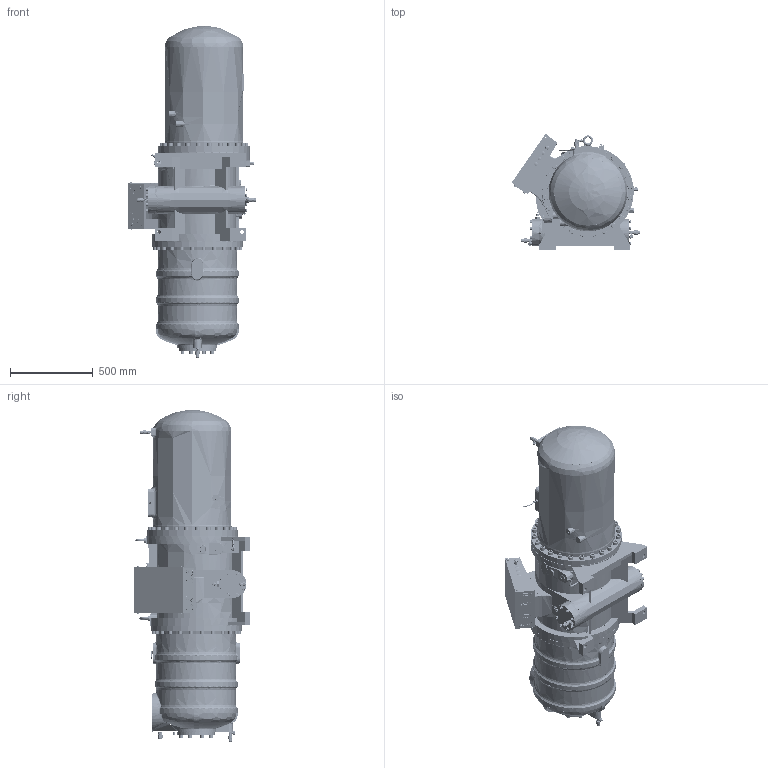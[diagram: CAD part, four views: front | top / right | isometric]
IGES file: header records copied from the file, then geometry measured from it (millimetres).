
Start section: SolidWorks IGES file using analytic representation for surfaces
Global section: file name: \\Datacenterrd1\@研發部\設計一課(冷媒)\(1)-文管中心\(2)-3D文管\(8)-Compressor 3Doutline(Surface)\RC2\RC2-A\IGS\RC2-930A outline.IGS; native system: SolidWorks 2013; preprocessor: SolidWorks 2013; author: hedylu; date: 141225.172332; units: centimetre
Bounding box: 776.8 x 700.45 x 2001 mm (x, y, z)
Surface area: 6408937.8 mm2 (no closed solid volume)
Topology: 0 solids, 0 shells, 2976 faces, 58488 edges, 58475 vertices
Faces by surface type: bspline 1935, revolution 1041
